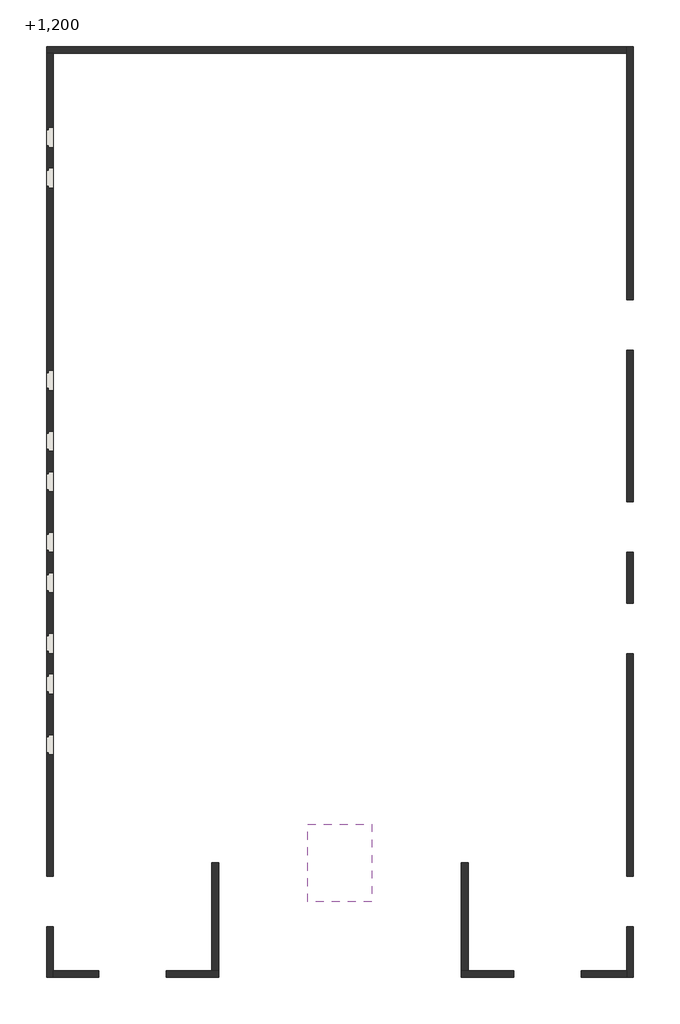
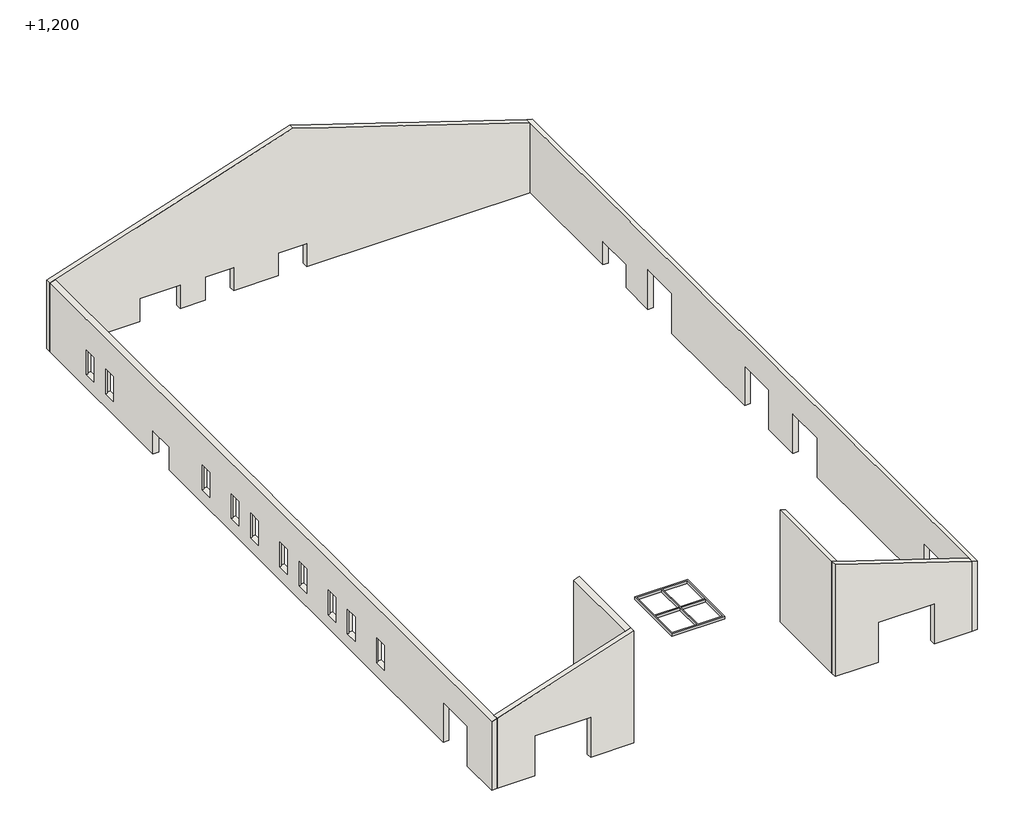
# One storey: 7 walls, 1 proxy.
"""IFC4 building model written with IfcOpenShell, lengths in millimetres."""

from ifc_helpers import new_model, si_unit, origin, place, context, project, spatial, faceted_brep, transform, mapped, element, save
from components import generic_models_366e0e44

model = new_model("IFC4")

# Units and contexts
model_context = context("Model", 3, world=origin())
ifc_project = project(units=[si_unit("LENGTHUNIT", "METRE", prefix="MILLI")], contexts=[model_context])

# Site, building, storey
site = spatial("IfcSite", under=ifc_project)
building = spatial("IfcBuilding", under=site)
storey = spatial("IfcBuildingStorey", under=building, Name="+1,200", Elevation=1200.0)

# Proxy
placement = place(None, origin())
generic_models_shape = generic_models_366e0e44(model_context)
element("IfcBuildingElementProxy", 1, Name="Витраж потолок : Витраж потолок", ObjectType="Витраж потолок : Витраж потолок", at=placement, inside=storey, context=model_context, shape_type="MappedRepresentation", body=[
    mapped(generic_models_shape, transform((0.0, 0.0, 0.0), x_axis=(1.0, 0.0, 0.0), y_axis=(0.0, 1.0, 0.0), z_axis=(0.0, 0.0, 1.0))),
])

# Walls
element("IfcWall", 2, ObjectType="ADSK_Наружная_Сэндвич_Утеплитель_200 RAL 1015", at=placement, inside=storey, context=model_context, shape_type="Brep", body=[
    faceted_brep([(16901.0630762, 27100.0, 1200.0), (16901.0630762, 27100.0, 3847.7710692), (12431.0, 27100.0, 5300.2173622), (12430.0, 27100.0, 5300.5422897), (12305.0, 27100.0, 5341.1582236), (12180.0, 27100.0, 5381.7741576), (9681.0, 27100.0, 6193.7679089), (9680.0, 27100.0, 6194.0928364), (9555.0, 27100.0, 6234.7087704), (9554.0, 27100.0, 6235.0336978), (8400.0, 27100.0, 6610.0), (4625.0, 27100.0, 5383.3987949), (4500.0, 27100.0, 5342.782861), (4375.0, 27100.0, 5302.166927), (4374.0, 27100.0, 5301.8419996), (2795.2572865, 27100.0, 4788.8651214), (2675.2572865, 27100.0, 4749.8738249), (-100.0, 27100.0, 3848.1164919), (-300.0, 27100.0, 3783.1309975), (-300.0, 27100.0, 1200.0), (-100.0, 27100.0, 1200.0), (2929.9972865, 27100.0, 1200.0), (2929.9972865, 27100.0, 2082.0), (4369.9972865, 27100.0, 2082.0), (4369.9972865, 27100.0, 1200.0), (5269.9972865, 27100.0, 1200.0), (5269.9972865, 27100.0, 2070.0), (6279.9972865, 27100.0, 2070.0), (6279.9972865, 27100.0, 1200.0), (7889.9997514, 27100.0, 1200.0), (7889.9997514, 27100.0, 2070.0), (8899.9997514, 27100.0, 2070.0), (8899.9997514, 27100.0, 1200.0), (16900.0, 27100.0, 1200.0), (16901.0630762, 27300.0, 3847.7710692), (16901.0630762, 27300.0, 1200.0), (16900.0, 27300.0, 1200.0), (8899.9997514, 27300.0, 1200.0), (8899.9997514, 27300.0, 2070.0), (7889.9997514, 27300.0, 2070.0), (7889.9997514, 27300.0, 1200.0), (6279.9972865, 27300.0, 1200.0), (6279.9972865, 27300.0, 2070.0), (5269.9972865, 27300.0, 2070.0), (5269.9972865, 27300.0, 1200.0), (4369.9972865, 27300.0, 1200.0), (4369.9972865, 27300.0, 2082.0), (2929.9972865, 27300.0, 2082.0), (2929.9972865, 27300.0, 1200.0), (-100.0, 27300.0, 1200.0), (-300.0, 27300.0, 1200.0), (-300.0, 27300.0, 3783.1309975), (8400.0, 27300.0, 6610.0)], [[[0, 1, 2, 3, 4, 5, 6, 7, 8, 9, 10, 11, 12, 13, 14, 15, 16, 17, 18, 19, 20, 21, 22, 23, 24, 25, 26, 27, 28, 29, 30, 31, 32, 33]], [[34, 35, 36, 37, 38, 39, 40, 41, 42, 43, 44, 45, 46, 47, 48, 49, 50, 51, 52]], [[35, 0, 33, 32, 37, 36]], [[19, 50, 49, 48, 21, 20]], [[25, 24, 45, 44]], [[28, 41, 40, 29]], [[1, 0, 35, 34]], [[19, 18, 51, 50]], [[42, 27, 26, 43]], [[43, 26, 25, 44]], [[27, 42, 41, 28]], [[38, 31, 30, 39]], [[39, 30, 29, 40]], [[31, 38, 37, 32]], [[22, 47, 46, 23]], [[47, 22, 21, 48]], [[23, 46, 45, 24]], [[51, 18, 17, 16, 15, 14, 13, 12, 11, 10, 52]], [[1, 34, 52, 10, 9, 8, 7, 6, 5, 4, 3, 2]]]),
])
element("IfcWall", 3, ObjectType="ADSK_Наружная_Сэндвич_Утеплитель_200 RAL 1015", at=placement, inside=storey, context=model_context, shape_type="Brep", body=[
    faceted_brep([(16900.0, 27300.0, 3848.1164919), (16900.0, 27300.0, 1200.0), (16900.0, 22590.0, 1200.0), (16900.0, 22590.0, 2069.5), (16900.0, 21150.0, 2069.5), (16900.0, 21150.0, 1200.0), (16900.0, 19799.996604, 1200.0), (16900.0, 19799.996604, 2700.0), (16900.0, 18299.996604, 2700.0), (16900.0, 18299.996604, 1200.0), (16900.0, 13799.9990005, 1200.0), (16900.0, 13799.9990005, 2700.0), (16900.0, 12299.9990005, 2700.0), (16900.0, 12299.9990005, 1200.0), (16900.0, 10799.9992574, 1200.0), (16900.0, 10799.9992574, 2700.0), (16900.0, 9299.9992574, 2700.0), (16900.0, 9299.9992574, 1200.0), (16900.0, 2699.99936, 1200.0), (16900.0, 2699.99936, 2700.0), (16900.0, 1199.99936, 2700.0), (16900.0, 1199.99936, 1200.0), (16900.0, -100.0, 1200.0), (16900.0, -300.0, 1200.0), (16900.0, -300.0, 3848.1164919), (16900.0, -100.0, 3848.1164919), (16900.0, -99.0, 3848.1164919), (16900.0, 4273.9957095, 3848.1164919), (16900.0, 4274.9957095, 3848.1164919), (16900.0, 4399.9957095, 3848.1164919), (16900.0, 4400.9957095, 3848.1164919), (16900.0, 6999.0, 3848.1164919), (16900.0, 7000.0, 3848.1164919), (16900.0, 7125.0, 3848.1164919), (16900.0, 7126.0, 3848.1164919), (16900.0, 11774.0, 3848.1164919), (16900.0, 11775.0, 3848.1164919), (16900.0, 11900.0, 3848.1164919), (16900.0, 11901.0, 3848.1164919), (16900.0, 16348.9313142, 3848.1164919), (16900.0, 16349.9313142, 3848.1164919), (16900.0, 16474.9313142, 3848.1164919), (16900.0, 16475.9313142, 3848.1164919), (16900.0, 20774.5, 3848.1164919), (16900.0, 20775.5, 3848.1164919), (16900.0, 20900.5, 3848.1164919), (16900.0, 20901.5, 3848.1164919), (16900.0, 22620.0, 3848.1164919), (16900.0, 22745.0, 3848.1164919), (17100.0, 27300.0, 1200.0), (17100.0, 27300.0, 3783.1309975), (17100.0, -300.0, 3783.1309975), (17100.0, -300.0, 1200.0), (17100.0, -100.0, 1200.0), (17100.0, 1199.99936, 1200.0), (17100.0, 1199.99936, 2700.0), (17100.0, 2699.99936, 2700.0), (17100.0, 2699.99936, 1200.0), (17100.0, 9299.9992574, 1200.0), (17100.0, 9299.9992574, 2700.0), (17100.0, 10799.9992574, 2700.0), (17100.0, 10799.9992574, 1200.0), (17100.0, 12299.9990005, 1200.0), (17100.0, 12299.9990005, 2700.0), (17100.0, 13799.9990005, 2700.0), (17100.0, 13799.9990005, 1200.0), (17100.0, 18299.996604, 1200.0), (17100.0, 18299.996604, 2700.0), (17100.0, 19799.996604, 2700.0), (17100.0, 19799.996604, 1200.0), (17100.0, 21150.0, 1200.0), (17100.0, 21150.0, 2069.5), (17100.0, 22590.0, 2069.5), (17100.0, 22590.0, 1200.0)], [[[0, 1, 2, 3, 4, 5, 6, 7, 8, 9, 10, 11, 12, 13, 14, 15, 16, 17, 18, 19, 20, 21, 22, 23, 24, 25, 26, 27, 28, 29, 30, 31, 32, 33, 34, 35, 36, 37, 38, 39, 40, 41, 42, 43, 44, 45, 46, 47, 48]], [[49, 50, 51, 52, 53, 54, 55, 56, 57, 58, 59, 60, 61, 62, 63, 64, 65, 66, 67, 68, 69, 70, 71, 72, 73]], [[52, 23, 22, 21, 54, 53]], [[10, 9, 66, 65]], [[14, 13, 62, 61]], [[1, 49, 73, 2]], [[5, 70, 69, 6]], [[17, 58, 57, 18]], [[1, 0, 50, 49]], [[3, 72, 71, 4]], [[72, 3, 2, 73]], [[4, 71, 70, 5]], [[0, 48, 47, 46, 45, 44, 43, 42, 41, 40, 39, 38, 37, 36, 35, 34, 33, 32, 31, 30, 29, 28, 27, 26, 25, 24, 51, 50]], [[24, 23, 52, 51]], [[55, 20, 19, 56]], [[56, 19, 18, 57]], [[20, 55, 54, 21]], [[59, 16, 15, 60]], [[60, 15, 14, 61]], [[16, 59, 58, 17]], [[63, 12, 11, 64]], [[64, 11, 10, 65]], [[12, 63, 62, 13]], [[67, 8, 7, 68]], [[68, 7, 6, 69]], [[8, 67, 66, 9]]]),
])
element("IfcWall", 4, ObjectType="ADSK_Наружная_Сэндвич_Утеплитель_200 RAL 1015", at=placement, inside=storey, context=model_context, shape_type="Brep", body=[
    faceted_brep([(12000.0, -100.0, 1200.0), (12000.0, -100.0, 5440.2611024), (12200.0, -100.0, 5375.2756081), (12201.0, -100.0, 5374.9506807), (16900.0, -100.0, 3848.1164919), (16900.0, -100.0, 1200.0), (15550.0046143, -100.0, 1200.0), (15550.0046143, -100.0, 2710.0), (13550.0046143, -100.0, 2710.0), (13550.0046143, -100.0, 1200.0), (12200.0, -100.0, 1200.0), (12000.0, -300.0, 5440.2611024), (12000.0, -300.0, 1200.0), (13550.0046143, -300.0, 1200.0), (13550.0046143, -300.0, 2710.0), (15550.0046143, -300.0, 2710.0), (15550.0046143, -300.0, 1200.0), (16900.0, -300.0, 1200.0), (16900.0, -300.0, 3848.1164919)], [[[0, 1, 2, 3, 4, 5, 6, 7, 8, 9, 10]], [[11, 12, 13, 14, 15, 16, 17, 18]], [[5, 17, 16, 6]], [[12, 0, 10, 9, 13]], [[1, 0, 12, 11]], [[4, 3, 2, 1, 11, 18]], [[5, 4, 18, 17]], [[7, 15, 14, 8]], [[8, 14, 13, 9]], [[15, 7, 6, 16]]]),
])
element("IfcWall", 5, ObjectType="ADSK_Наружная_Сэндвич_Утеплитель_200 RAL 1015", at=placement, inside=storey, context=model_context, shape_type="Brep", body=[
    faceted_brep([(12200.0, -100.0, 1200.0), (12200.0, 3100.0, 1200.0), (12200.0, 3100.0, 5375.2756081), (12200.0, -100.0, 5375.2756081), (12000.0, -100.0, 1200.0), (12000.0, -100.0, 5025.9054731), (12000.0, -100.0, 5175.9054731), (12000.0, -100.0, 5440.2611024), (12000.0, 3100.0, 5440.2611024), (12000.0, 3100.0, 1200.0)], [[[0, 1, 2, 3]], [[4, 5, 6, 7, 8, 9]], [[1, 0, 4, 9]], [[2, 1, 9, 8]], [[3, 2, 8, 7]], [[0, 3, 7, 6, 5, 4]]]),
])
element("IfcWall", 6, ObjectType="ADSK_Наружная_Сэндвич_Утеплитель_200 RAL 1015", at=placement, inside=storey, context=model_context, shape_type="Brep", body=[
    faceted_brep([(4600.0, 3100.5, 1200.0), (4600.0, -100.0, 1200.0), (4600.0, -100.0, 5375.2756081), (4600.0, -99.0, 5375.2756081), (4600.0, 3100.5, 5375.2756081), (4800.0, 3100.5, 1200.0), (4800.0, 3100.5, 5440.2611024), (4800.0, -100.0, 5440.2611024), (4800.0, -100.0, 5175.9054731), (4800.0, -100.0, 5025.9054731), (4800.0, -100.0, 1200.0), (4750.0, 3100.5, 5424.0147289), (4751.0, 3100.5, 5424.3396563)], [[[0, 1, 2, 3, 4]], [[5, 6, 7, 8, 9, 10]], [[1, 0, 5, 10]], [[0, 4, 11, 12, 6, 5]], [[4, 3, 2, 7, 6, 12, 11]], [[2, 1, 10, 9, 8, 7]]]),
])
element("IfcWall", 7, ObjectType="ADSK_Наружная_Сэндвич_Утеплитель_200 RAL 1015", at=placement, inside=storey, context=model_context, shape_type="Brep", body=[
    faceted_brep([(-100.0, -100.0, 1200.0), (-100.0, -100.0, 3848.1164919), (-99.0, -100.0, 3848.4414193), (4600.0, -100.0, 5375.2756081), (4800.0, -100.0, 5440.2611024), (4800.0, -100.0, 1200.0), (4600.0, -100.0, 1200.0), (3250.0015614, -100.0, 1200.0), (3250.0015614, -100.0, 2710.0), (1250.0015614, -100.0, 2710.0), (1250.0015614, -100.0, 1200.0), (-100.0, -300.0, 3848.1164919), (-100.0, -300.0, 1200.0), (1250.0015614, -300.0, 1200.0), (1250.0015614, -300.0, 2710.0), (3250.0015614, -300.0, 2710.0), (3250.0015614, -300.0, 1200.0), (4800.0, -300.0, 1200.0), (4800.0, -300.0, 5440.2611024)], [[[0, 1, 2, 3, 4, 5, 6, 7, 8, 9, 10]], [[11, 12, 13, 14, 15, 16, 17, 18]], [[12, 0, 10, 13]], [[5, 17, 16, 7, 6]], [[1, 0, 12, 11]], [[5, 4, 18, 17]], [[4, 3, 2, 1, 11, 18]], [[8, 15, 14, 9]], [[9, 14, 13, 10]], [[15, 8, 7, 16]]]),
])
element("IfcWall", 8, ObjectType="ADSK_Наружная_Сэндвич_Утеплитель_200 RAL 1015", at=placement, inside=storey, context=model_context, shape_type="Brep", body=[
    faceted_brep([(-100.0, -300.0, 3848.1164919), (-100.0, -300.0, 1200.0), (-100.0, 1200.0, 1200.0), (-100.0, 1200.0, 2700.0), (-100.0, 2700.0, 2700.0), (-100.0, 2700.0, 1200.0), (-100.0, 19689.9974866, 1200.0), (-100.0, 19689.9974866, 2070.0), (-100.0, 20699.9974866, 2070.0), (-100.0, 20699.9974866, 1200.0), (-100.0, 27100.0, 1200.0), (-100.0, 27100.0, 3848.1164919), (-100.0, 18250.0, 3848.1164919), (-100.0, 18240.0, 3848.1164919), (-100.0, 18120.0, 3848.1164919), (-100.0, 18110.0, 3848.1164919), (-100.0, 16039.9976367, 3848.1164919), (-100.0, 16029.9976367, 3848.1164919), (-100.0, 15909.9976367, 3848.1164919), (-100.0, 15899.9976367, 3848.1164919), (-100.0, 13780.0024506, 3848.1164919), (-100.0, 13770.0024506, 3848.1164919), (-100.0, 13650.0024506, 3848.1164919), (-100.0, 13638.0024506, 3848.1164919), (-100.0, 13637.0024506, 3848.1164919), (-100.0, 10643.0, 3848.1164919), (-100.0, 10642.0, 3848.1164919), (-100.0, 10630.0, 3848.1164919), (-100.0, 10510.0, 3848.1164919), (-100.0, 10498.0, 3848.1164919), (-100.0, 8902.0, 3848.1164919), (-100.0, 8890.0, 3848.1164919), (-100.0, 8770.0, 3848.1164919), (-100.0, 7059.9969968, 3848.1164919), (-100.0, 6939.9969968, 3848.1164919), (-100.0, 6929.8698515, 3848.1164919), (-100.0, 4400.9957095, 3848.1164919), (-100.0, 4399.9957095, 3848.1164919), (-100.0, 4274.9957095, 3848.1164919), (-100.0, 4273.9957095, 3848.1164919), (-100.0, -99.0, 3848.1164919), (-100.0, -100.0, 3848.1164919), (-100.0, 15299.9976368, 2700.0), (-100.0, 15899.9976368, 2700.0), (-100.0, 15899.9976368, 1700.0), (-100.0, 15299.9976368, 1700.0), (-100.0, 14100.0023632, 2700.0), (-100.0, 14700.0023632, 2700.0), (-100.0, 14700.0023632, 1700.0), (-100.0, 14100.0023632, 1700.0), (-100.0, 17100.0023632, 2700.0), (-100.0, 17700.0023632, 2700.0), (-100.0, 17700.0023632, 1700.0), (-100.0, 17100.0023632, 1700.0), (-100.0, 24300.0, 2700.0), (-100.0, 24900.0, 2700.0), (-100.0, 24900.0, 1700.0), (-100.0, 24300.0, 1700.0), (-100.0, 23100.0, 2700.0), (-100.0, 23700.0, 2700.0), (-100.0, 23700.0, 1700.0), (-100.0, 23100.0, 1700.0), (-100.0, 12299.9976368, 2700.0), (-100.0, 12899.9976368, 2700.0), (-100.0, 12899.9976368, 2000.0), (-100.0, 12899.9976368, 1700.0), (-100.0, 12299.9976368, 1700.0), (-100.0, 12299.9976368, 2000.0), (-100.0, 11100.0023632, 2700.0), (-100.0, 11700.0023632, 2700.0), (-100.0, 11700.0023632, 2000.0), (-100.0, 11700.0023632, 1700.0), (-100.0, 11100.0023632, 1700.0), (-100.0, 11100.0023632, 2000.0), (-100.0, 8100.0, 2700.0), (-100.0, 8700.0, 2700.0), (-100.0, 8700.0, 2000.0), (-100.0, 8700.0, 1700.0), (-100.0, 8100.0, 1700.0), (-100.0, 8100.0, 2000.0), (-100.0, 9300.0, 2700.0), (-100.0, 9900.0, 2700.0), (-100.0, 9900.0, 2000.0), (-100.0, 9900.0, 1700.0), (-100.0, 9300.0, 1700.0), (-100.0, 9300.0, 2000.0), (-100.0, 6300.0, 2700.0), (-100.0, 6900.0, 2700.0), (-100.0, 6900.0, 1700.0), (-100.0, 6300.0, 1700.0), (-300.0, -300.0, 1200.0), (-300.0, -300.0, 3783.1309975), (-300.0, 27100.0, 3783.1309975), (-300.0, 27100.0, 1200.0), (-300.0, 20699.9974866, 1200.0), (-300.0, 20699.9974866, 2070.0), (-300.0, 19689.9974866, 2070.0), (-300.0, 19689.9974866, 1200.0), (-300.0, 2700.0, 1200.0), (-300.0, 2700.0, 2700.0), (-300.0, 1200.0, 2700.0), (-300.0, 1200.0, 1200.0), (-300.0, 24365.0, 1700.0), (-300.0, 24835.0, 1700.0), (-300.0, 24835.0, 2635.0), (-300.0, 24365.0, 2635.0), (-300.0, 23165.0, 1700.0), (-300.0, 23635.0, 1700.0), (-300.0, 23635.0, 2635.0), (-300.0, 23165.0, 2635.0), (-300.0, 17165.0023632, 1700.0), (-300.0, 17635.0023632, 1700.0), (-300.0, 17635.0023632, 2635.0), (-300.0, 17165.0023632, 2635.0), (-300.0, 15364.9976368, 1700.0), (-300.0, 15834.9976368, 1700.0), (-300.0, 15834.9976368, 2635.0), (-300.0, 15364.9976368, 2635.0), (-300.0, 14165.0023632, 1700.0), (-300.0, 14635.0023632, 1700.0), (-300.0, 14635.0023632, 2635.0), (-300.0, 14165.0023632, 2635.0), (-300.0, 12364.9976368, 1700.0), (-300.0, 12834.9976368, 1700.0), (-300.0, 12834.9976368, 2635.0), (-300.0, 12364.9976368, 2635.0), (-300.0, 11165.0023632, 1700.0), (-300.0, 11635.0023632, 1700.0), (-300.0, 11635.0023632, 2635.0), (-300.0, 11165.0023632, 2635.0), (-300.0, 9365.0, 1700.0), (-300.0, 9835.0, 1700.0), (-300.0, 9835.0, 2635.0), (-300.0, 9365.0, 2635.0), (-300.0, 8165.0, 1700.0), (-300.0, 8635.0, 1700.0), (-300.0, 8635.0, 2635.0), (-300.0, 8165.0, 2635.0), (-300.0, 6365.0, 1700.0), (-300.0, 6835.0, 1700.0), (-300.0, 6835.0, 2635.0), (-300.0, 6365.0, 2635.0), (-250.0, 6900.0, 2700.0), (-250.0, 6300.0, 2700.0), (-250.0, 6300.0, 1700.0), (-250.0, 6365.0, 1700.0), (-250.0, 6365.0, 2635.0), (-250.0, 6835.0, 2635.0), (-250.0, 6835.0, 1700.0), (-250.0, 6900.0, 1700.0), (-250.0, 8700.0, 2700.0), (-250.0, 8100.0, 2700.0), (-250.0, 8100.0, 1700.0), (-250.0, 8165.0, 1700.0), (-250.0, 8165.0, 2635.0), (-250.0, 8635.0, 2635.0), (-250.0, 8635.0, 1700.0), (-250.0, 8700.0, 1700.0), (-250.0, 9900.0, 2700.0), (-250.0, 9300.0, 2700.0), (-250.0, 9300.0, 1700.0), (-250.0, 9365.0, 1700.0), (-250.0, 9365.0, 2635.0), (-250.0, 9835.0, 2635.0), (-250.0, 9835.0, 1700.0), (-250.0, 9900.0, 1700.0), (-250.0, 11700.0023632, 2700.0), (-250.0, 11100.0023632, 2700.0), (-250.0, 11100.0023632, 1700.0), (-250.0, 11165.0023632, 1700.0), (-250.0, 11165.0023632, 2635.0), (-250.0, 11635.0023632, 2635.0), (-250.0, 11635.0023632, 1700.0), (-250.0, 11700.0023632, 1700.0), (-250.0, 12899.9976368, 2700.0), (-250.0, 12299.9976368, 2700.0), (-250.0, 12299.9976368, 1700.0), (-250.0, 12364.9976368, 1700.0), (-250.0, 12364.9976368, 2635.0), (-250.0, 12834.9976368, 2635.0), (-250.0, 12834.9976368, 1700.0), (-250.0, 12899.9976368, 1700.0), (-250.0, 14700.0023632, 2700.0), (-250.0, 14100.0023632, 2700.0), (-250.0, 14100.0023632, 1700.0), (-250.0, 14165.0023632, 1700.0), (-250.0, 14165.0023632, 2635.0), (-250.0, 14635.0023632, 2635.0), (-250.0, 14635.0023632, 1700.0), (-250.0, 14700.0023632, 1700.0), (-250.0, 15899.9976368, 2700.0), (-250.0, 15299.9976368, 2700.0), (-250.0, 15299.9976368, 1700.0), (-250.0, 15364.9976368, 1700.0), (-250.0, 15364.9976368, 2635.0), (-250.0, 15834.9976368, 2635.0), (-250.0, 15834.9976368, 1700.0), (-250.0, 15899.9976368, 1700.0), (-250.0, 17700.0023632, 2700.0), (-250.0, 17100.0023632, 2700.0), (-250.0, 17100.0023632, 1700.0), (-250.0, 17165.0023632, 1700.0), (-250.0, 17165.0023632, 2635.0), (-250.0, 17635.0023632, 2635.0), (-250.0, 17635.0023632, 1700.0), (-250.0, 17700.0023632, 1700.0), (-250.0, 23700.0, 2700.0), (-250.0, 23100.0, 2700.0), (-250.0, 23100.0, 1700.0), (-250.0, 23165.0, 1700.0), (-250.0, 23165.0, 2635.0), (-250.0, 23635.0, 2635.0), (-250.0, 23635.0, 1700.0), (-250.0, 23700.0, 1700.0), (-250.0, 24900.0, 2700.0), (-250.0, 24300.0, 2700.0), (-250.0, 24300.0, 1700.0), (-250.0, 24365.0, 1700.0), (-250.0, 24365.0, 2635.0), (-250.0, 24835.0, 2635.0), (-250.0, 24835.0, 1700.0), (-250.0, 24900.0, 1700.0)], [[[0, 1, 2, 3, 4, 5, 6, 7, 8, 9, 10, 11, 12, 13, 14, 15, 16, 17, 18, 19, 20, 21, 22, 23, 24, 25, 26, 27, 28, 29, 30, 31, 32, 33, 34, 35, 36, 37, 38, 39, 40, 41], [42, 43, 44, 45], [46, 47, 48, 49], [50, 51, 52, 53], [54, 55, 56, 57], [58, 59, 60, 61], [62, 63, 64, 65, 66, 67], [68, 69, 70, 71, 72, 73], [74, 75, 76, 77, 78, 79], [80, 81, 82, 83, 84, 85], [86, 87, 88, 89]], [[90, 91, 92, 93, 94, 95, 96, 97, 98, 99, 100, 101], [102, 103, 104, 105], [106, 107, 108, 109], [110, 111, 112, 113], [114, 115, 116, 117], [118, 119, 120, 121], [122, 123, 124, 125], [126, 127, 128, 129], [130, 131, 132, 133], [134, 135, 136, 137], [138, 139, 140, 141]], [[10, 9, 94, 93]], [[1, 90, 101, 2]], [[97, 6, 5, 98]], [[1, 0, 91, 90]], [[142, 143, 144, 145, 146, 147, 148, 149]], [[150, 151, 152, 153, 154, 155, 156, 157]], [[158, 159, 160, 161, 162, 163, 164, 165]], [[166, 167, 168, 169, 170, 171, 172, 173]], [[174, 175, 176, 177, 178, 179, 180, 181]], [[182, 183, 184, 185, 186, 187, 188, 189]], [[190, 191, 192, 193, 194, 195, 196, 197]], [[198, 199, 200, 201, 202, 203, 204, 205]], [[206, 207, 208, 209, 210, 211, 212, 213]], [[214, 215, 216, 217, 218, 219, 220, 221]], [[95, 8, 7, 96]], [[96, 7, 6, 97]], [[8, 95, 94, 9]], [[0, 41, 40, 39, 38, 37, 36, 35, 34, 33, 32, 31, 30, 29, 28, 27, 26, 25, 24, 23, 22, 21, 20, 19, 18, 17, 16, 15, 14, 13, 12, 11, 92, 91]], [[99, 4, 3, 100]], [[100, 3, 2, 101]], [[4, 99, 98, 5]], [[215, 214, 55, 54]], [[216, 215, 54, 57]], [[216, 57, 56, 221, 220, 103, 102, 217]], [[214, 221, 56, 55]], [[104, 219, 218, 105]], [[105, 218, 217, 102]], [[219, 104, 103, 220]], [[207, 206, 59, 58]], [[208, 207, 58, 61]], [[208, 61, 60, 213, 212, 107, 106, 209]], [[206, 213, 60, 59]], [[108, 211, 210, 109]], [[109, 210, 209, 106]], [[211, 108, 107, 212]], [[199, 198, 51, 50]], [[200, 199, 50, 53]], [[200, 53, 52, 205, 204, 111, 110, 201]], [[198, 205, 52, 51]], [[112, 203, 202, 113]], [[113, 202, 201, 110]], [[203, 112, 111, 204]], [[191, 190, 43, 42]], [[192, 191, 42, 45]], [[192, 45, 44, 197, 196, 115, 114, 193]], [[190, 197, 44, 43]], [[116, 195, 194, 117]], [[117, 194, 193, 114]], [[195, 116, 115, 196]], [[183, 182, 47, 46]], [[184, 183, 46, 49]], [[184, 49, 48, 189, 188, 119, 118, 185]], [[182, 189, 48, 47]], [[120, 187, 186, 121]], [[121, 186, 185, 118]], [[187, 120, 119, 188]], [[175, 174, 63, 62]], [[176, 175, 62, 67, 66]], [[176, 66, 65, 181, 180, 123, 122, 177]], [[174, 181, 65, 64, 63]], [[124, 179, 178, 125]], [[125, 178, 177, 122]], [[179, 124, 123, 180]], [[167, 166, 69, 68]], [[168, 167, 68, 73, 72]], [[168, 72, 71, 173, 172, 127, 126, 169]], [[166, 173, 71, 70, 69]], [[128, 171, 170, 129]], [[129, 170, 169, 126]], [[171, 128, 127, 172]], [[159, 158, 81, 80]], [[160, 159, 80, 85, 84]], [[160, 84, 83, 165, 164, 131, 130, 161]], [[158, 165, 83, 82, 81]], [[132, 163, 162, 133]], [[133, 162, 161, 130]], [[163, 132, 131, 164]], [[151, 150, 75, 74]], [[152, 151, 74, 79, 78]], [[152, 78, 77, 157, 156, 135, 134, 153]], [[150, 157, 77, 76, 75]], [[136, 155, 154, 137]], [[137, 154, 153, 134]], [[155, 136, 135, 156]], [[143, 142, 87, 86]], [[144, 143, 86, 89]], [[144, 89, 88, 149, 148, 139, 138, 145]], [[142, 149, 88, 87]], [[140, 147, 146, 141]], [[141, 146, 145, 138]], [[147, 140, 139, 148]], [[11, 10, 93, 92]]]),
])

save(model, "model.ifc")
